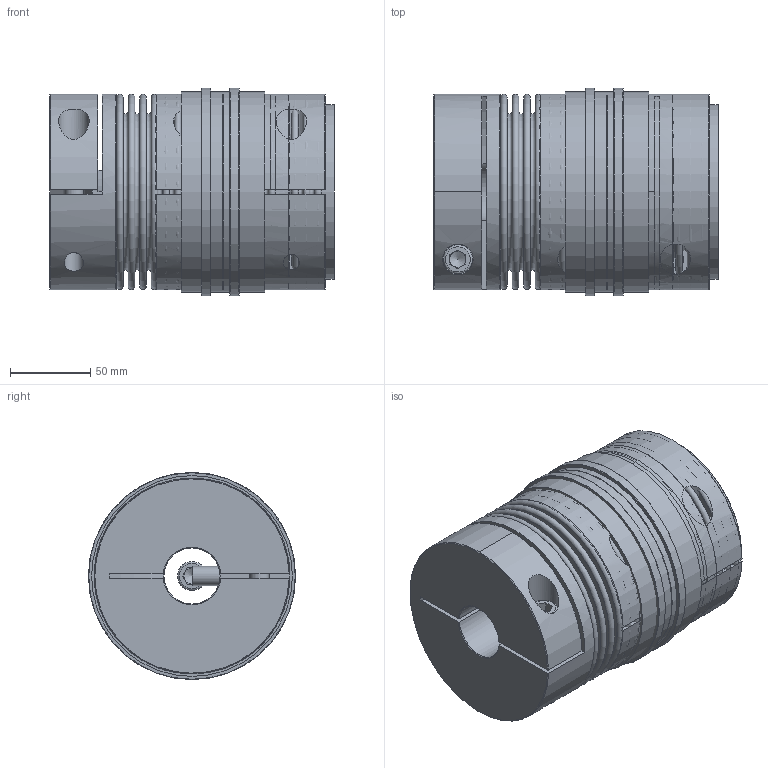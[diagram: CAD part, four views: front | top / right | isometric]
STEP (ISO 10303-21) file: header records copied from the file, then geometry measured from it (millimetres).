
FILE_DESCRIPTION( ( 'Unknown' ), '1' );
FILE_NAME( 'C:/Dokumente und Einstellungen/SKarpstein/Desktop/Korrigierte 3D Modelle/KBK-BKK-500-170.stp', 'Unknown', ( 'Unknown' ), ( 'Unknown' ), 'XStep 1.0', 'Unknown', ' ' );
FILE_SCHEMA( ( 'automotive_design' ) );
Length unit declared in the file: millimetre
Products named in the file (11): Assem1; Assem2; Zylinderschraube DIN 912_3_0_0; Stellring 500_0; Druckring 500_0; KBK L-K-500 Grundkörper_0; Klemmnabe 500_0; Flansch BK500; BL500_Standard_2; KN500_Standard_4; Socket Head Cap Screw_DIN_DIN 912 M12 x 55 --- 55N_4
Bounding box: 177.1 x 129 x 129 mm (x, y, z)
Volume: 2695081.3 mm3; surface area: 696558.9 mm2
Topology: 19 solids, 19 shells, 393 faces, 806 edges, 531 vertices
Faces by surface type: plane 184, cylinder 98, cone 59, torus 52
Full cylindrical faces by diameter (mm): 3.242 x6, 5.1 x6, 5.2 x6, 10.106 x2, 12 x7, 12.5 x4, 18 x5, 19 x4, 35 x4, 62 x2, 65 x4, 70 x2, 80 x2, 86 x4, 90 x2, 104.5 x2, 107.7 x4, 108.9 x4, 113 x2, 114 x2, 122 x2, 125 x4, 129 x2
Entity records: 5411 total; most frequent: CARTESIAN_POINT 1445, DIRECTION 807, ORIENTED_EDGE 540, AXIS2_PLACEMENT_3D 367, EDGE_LOOP 340, EDGE_CURVE 270, FACE_OUTER_BOUND 254, VERTEX_POINT 227
